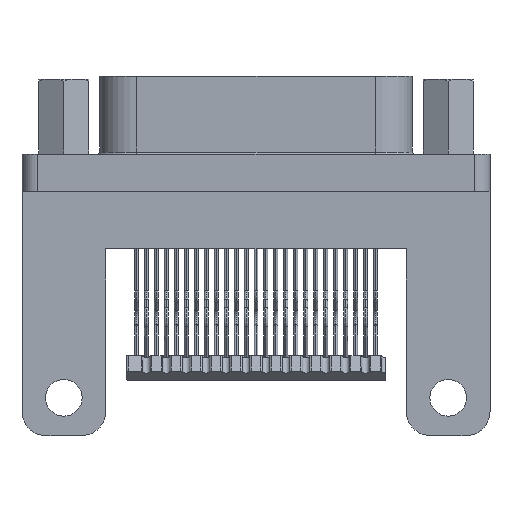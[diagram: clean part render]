
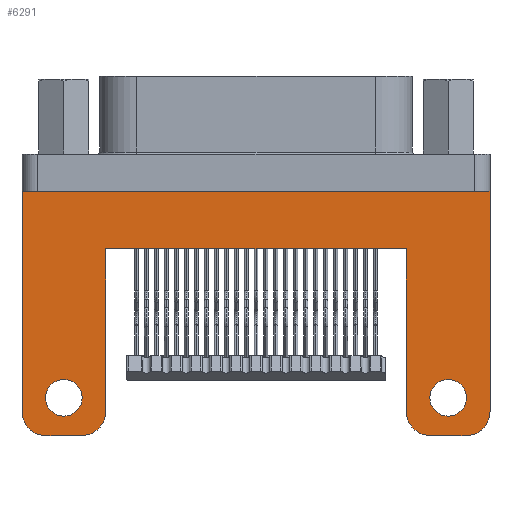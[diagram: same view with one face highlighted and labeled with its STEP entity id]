
A CAD part, front view. The second image highlights one B-rep face of the part: STEP entity #6291.
In plain terms, the highlighted planar face has unit normal (0, -1, 0).
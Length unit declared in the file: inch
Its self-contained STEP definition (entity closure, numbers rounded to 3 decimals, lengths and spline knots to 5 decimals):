
#168 = CARTESIAN_POINT ( 'NONE',  ( -0.5285, -0.17, -0.572 ) ) ;
#1288 = ORIENTED_EDGE ( 'NONE', *, *, #30283, .T. ) ;
#1327 = DIRECTION ( 'NONE',  ( 0., -1., 0. ) ) ;
#2332 = AXIS2_PLACEMENT_3D ( 'NONE', #32446, #20531, #61475 ) ;
#3058 = AXIS2_PLACEMENT_3D ( 'NONE', #11123, #28085, #23109 ) ;
#3175 = ORIENTED_EDGE ( 'NONE', *, *, #55993, .T. ) ;
#3183 = DIRECTION ( 'NONE',  ( 1., 0., 0. ) ) ;
#3599 = DIRECTION ( 'NONE',  ( 0., 1., 0. ) ) ;
#3725 = AXIS2_PLACEMENT_3D ( 'NONE', #62310, #43337, #3183 ) ;
#3795 = EDGE_CURVE ( 'NONE', #40444, #73450, #10150, .T. ) ;
#4733 = CARTESIAN_POINT ( 'NONE',  ( -0.5275, -0.17, -0.667 ) ) ;
#5763 = ORIENTED_EDGE ( 'NONE', *, *, #59586, .F. ) ;
#6291 = ADVANCED_FACE ( 'NONE', ( #43853, #6856, #42346 ), #65951, .T. ) ;
#6403 = ORIENTED_EDGE ( 'NONE', *, *, #74824, .T. ) ;
#6409 = AXIS2_PLACEMENT_3D ( 'NONE', #59103, #47498, #11971 ) ;
#6856 = FACE_BOUND ( 'NONE', #70817, .T. ) ;
#6862 = CARTESIAN_POINT ( 'NONE',  ( -0.5875, -0.17, -0.053 ) ) ;
#7282 = ORIENTED_EDGE ( 'NONE', *, *, #14029, .F. ) ;
#8904 = CIRCLE ( 'NONE', #6409, 0.046 ) ;
#9475 = EDGE_CURVE ( 'NONE', #32675, #39168, #68971, .T. ) ;
#9712 = CARTESIAN_POINT ( 'NONE',  ( 0.3775, -0.17, -0.667 ) ) ;
#10150 = CIRCLE ( 'NONE', #3058, 0.046 ) ;
#11123 = CARTESIAN_POINT ( 'NONE',  ( -0.4825, -0.17, -0.572 ) ) ;
#11342 = VERTEX_POINT ( 'NONE', #51732 ) ;
#11971 = DIRECTION ( 'NONE',  ( -1., 0., 0. ) ) ;
#12457 = DIRECTION ( 'NONE',  ( 0., 0., 1. ) ) ;
#12532 = EDGE_CURVE ( 'NONE', #42763, #29572, #28003, .T. ) ;
#13311 = DIRECTION ( 'NONE',  ( -1., 0., 0. ) ) ;
#14029 = EDGE_CURVE ( 'NONE', #15058, #42763, #52236, .T. ) ;
#14647 = AXIS2_PLACEMENT_3D ( 'NONE', #66982, #1327, #60064 ) ;
#14749 = DIRECTION ( 'NONE',  ( 0., 0., 1. ) ) ;
#15058 = VERTEX_POINT ( 'NONE', #44960 ) ;
#15308 = EDGE_CURVE ( 'NONE', #75183, #48683, #54309, .T. ) ;
#16342 = CARTESIAN_POINT ( 'NONE',  ( -0.5875, -0.17, -0.667 ) ) ;
#16945 = CARTESIAN_POINT ( 'NONE',  ( 0.5875, -0.17, -0.053 ) ) ;
#17752 = ORIENTED_EDGE ( 'NONE', *, *, #3795, .T. ) ;
#18004 = AXIS2_PLACEMENT_3D ( 'NONE', #71652, #60812, #13311 ) ;
#18327 = LINE ( 'NONE', #65381, #28744 ) ;
#18516 = EDGE_CURVE ( 'NONE', #48683, #75183, #29065, .T. ) ;
#18731 = VERTEX_POINT ( 'NONE', #4733 ) ;
#19298 = DIRECTION ( 'NONE',  ( 0., 0., 1. ) ) ;
#19550 = VECTOR ( 'NONE', #27827, 39.37008 ) ;
#19659 = CARTESIAN_POINT ( 'NONE',  ( -0.3775, -0.17, -0.667 ) ) ;
#19710 = DIRECTION ( 'NONE',  ( 1., 0., 0. ) ) ;
#20159 = CARTESIAN_POINT ( 'NONE',  ( 0.5285, -0.17, -0.572 ) ) ;
#20531 = DIRECTION ( 'NONE',  ( 0., -1., 0. ) ) ;
#20828 = VERTEX_POINT ( 'NONE', #51388 ) ;
#21321 = ORIENTED_EDGE ( 'NONE', *, *, #60599, .T. ) ;
#21676 = CARTESIAN_POINT ( 'NONE',  ( 0.3775, -0.17, -0.667 ) ) ;
#23109 = DIRECTION ( 'NONE',  ( -1., 0., 0. ) ) ;
#23488 = CIRCLE ( 'NONE', #3725, 0.06 ) ;
#24061 = CARTESIAN_POINT ( 'NONE',  ( 0.5875, -0.17, -0.607 ) ) ;
#25378 = DIRECTION ( 'NONE',  ( 1., 0., 0. ) ) ;
#27827 = DIRECTION ( 'NONE',  ( 0., 0., 1. ) ) ;
#28003 = LINE ( 'NONE', #75944, #58898 ) ;
#28085 = DIRECTION ( 'NONE',  ( 0., 1., 0. ) ) ;
#28744 = VECTOR ( 'NONE', #12457, 39.37008 ) ;
#29059 = CARTESIAN_POINT ( 'NONE',  ( -0.4375, -0.17, -0.667 ) ) ;
#29065 = CIRCLE ( 'NONE', #18004, 0.046 ) ;
#29572 = VERTEX_POINT ( 'NONE', #16945 ) ;
#30283 = EDGE_CURVE ( 'NONE', #39168, #20828, #65623, .T. ) ;
#30719 = ORIENTED_EDGE ( 'NONE', *, *, #9475, .T. ) ;
#30734 = ORIENTED_EDGE ( 'NONE', *, *, #63821, .T. ) ;
#31685 = VERTEX_POINT ( 'NONE', #36813 ) ;
#32423 = VECTOR ( 'NONE', #47136, 39.37008 ) ;
#32446 = CARTESIAN_POINT ( 'NONE',  ( -0.4375, -0.17, -0.607 ) ) ;
#32631 = EDGE_CURVE ( 'NONE', #42223, #29572, #18327, .T. ) ;
#32675 = VERTEX_POINT ( 'NONE', #29059 ) ;
#32848 = LINE ( 'NONE', #9712, #47943 ) ;
#34052 = DIRECTION ( 'NONE',  ( -1., 0., 0. ) ) ;
#34581 = CARTESIAN_POINT ( 'NONE',  ( 0.39, -0.17, -0.198 ) ) ;
#34661 = VECTOR ( 'NONE', #56409, 39.37008 ) ;
#36113 = ORIENTED_EDGE ( 'NONE', *, *, #43072, .F. ) ;
#36813 = CARTESIAN_POINT ( 'NONE',  ( 0.4375, -0.17, -0.667 ) ) ;
#38208 = ORIENTED_EDGE ( 'NONE', *, *, #54513, .T. ) ;
#38233 = AXIS2_PLACEMENT_3D ( 'NONE', #56475, #3599, #34052 ) ;
#39168 = VERTEX_POINT ( 'NONE', #47223 ) ;
#40444 = VERTEX_POINT ( 'NONE', #168 ) ;
#40862 = EDGE_LOOP ( 'NONE', ( #17752, #3175 ) ) ;
#42223 = VERTEX_POINT ( 'NONE', #24061 ) ;
#42346 = FACE_BOUND ( 'NONE', #40862, .T. ) ;
#42432 = EDGE_CURVE ( 'NONE', #32675, #18731, #49494, .T. ) ;
#42720 = CARTESIAN_POINT ( 'NONE',  ( 0.3775, -0.17, -0.667 ) ) ;
#42763 = VERTEX_POINT ( 'NONE', #6862 ) ;
#43072 = EDGE_CURVE ( 'NONE', #53651, #20828, #63960, .T. ) ;
#43337 = DIRECTION ( 'NONE',  ( 0., -1., 0. ) ) ;
#43853 = FACE_OUTER_BOUND ( 'NONE', #47062, .T. ) ;
#44789 = CARTESIAN_POINT ( 'NONE',  ( -0.4365, -0.17, -0.572 ) ) ;
#44899 = CARTESIAN_POINT ( 'NONE',  ( 0.4365, -0.17, -0.572 ) ) ;
#44960 = CARTESIAN_POINT ( 'NONE',  ( -0.5875, -0.17, -0.607 ) ) ;
#46004 = ORIENTED_EDGE ( 'NONE', *, *, #42432, .F. ) ;
#47062 = EDGE_LOOP ( 'NONE', ( #7282, #21321, #46004, #30719, #1288, #36113, #5763, #38208, #30734, #6403, #70720, #73445 ) ) ;
#47136 = DIRECTION ( 'NONE',  ( 1., 0., 0. ) ) ;
#47185 = VECTOR ( 'NONE', #52397, 39.37008 ) ;
#47223 = CARTESIAN_POINT ( 'NONE',  ( -0.3775, -0.17, -0.607 ) ) ;
#47498 = DIRECTION ( 'NONE',  ( 0., 1., 0. ) ) ;
#47943 = VECTOR ( 'NONE', #14749, 39.37008 ) ;
#48149 = CIRCLE ( 'NONE', #63009, 0.06 ) ;
#48683 = VERTEX_POINT ( 'NONE', #44899 ) ;
#49494 = LINE ( 'NONE', #50246, #34661 ) ;
#50246 = CARTESIAN_POINT ( 'NONE',  ( -0.3775, -0.17, -0.667 ) ) ;
#50829 = DIRECTION ( 'NONE',  ( 1., 0., 0. ) ) ;
#51388 = CARTESIAN_POINT ( 'NONE',  ( -0.3775, -0.17, -0.198 ) ) ;
#51732 = CARTESIAN_POINT ( 'NONE',  ( 0.5275, -0.17, -0.667 ) ) ;
#51835 = ORIENTED_EDGE ( 'NONE', *, *, #18516, .T. ) ;
#52236 = LINE ( 'NONE', #16342, #19550 ) ;
#52397 = DIRECTION ( 'NONE',  ( -1., 0., 0. ) ) ;
#53651 = VERTEX_POINT ( 'NONE', #55039 ) ;
#54309 = CIRCLE ( 'NONE', #38233, 0.046 ) ;
#54487 = VECTOR ( 'NONE', #19298, 39.37008 ) ;
#54513 = EDGE_CURVE ( 'NONE', #63688, #31685, #23488, .T. ) ;
#55039 = CARTESIAN_POINT ( 'NONE',  ( 0.3775, -0.17, -0.198 ) ) ;
#55993 = EDGE_CURVE ( 'NONE', #73450, #40444, #8904, .T. ) ;
#56060 = CARTESIAN_POINT ( 'NONE',  ( 0.3775, -0.17, -0.607 ) ) ;
#56409 = DIRECTION ( 'NONE',  ( -1., 0., 0. ) ) ;
#56475 = CARTESIAN_POINT ( 'NONE',  ( 0.4825, -0.17, -0.572 ) ) ;
#58898 = VECTOR ( 'NONE', #50829, 39.37008 ) ;
#59103 = CARTESIAN_POINT ( 'NONE',  ( -0.4825, -0.17, -0.572 ) ) ;
#59586 = EDGE_CURVE ( 'NONE', #63688, #53651, #32848, .T. ) ;
#60064 = DIRECTION ( 'NONE',  ( 1., 0., 0. ) ) ;
#60599 = EDGE_CURVE ( 'NONE', #15058, #18731, #48149, .T. ) ;
#60812 = DIRECTION ( 'NONE',  ( 0., 1., 0. ) ) ;
#61475 = DIRECTION ( 'NONE',  ( 1., 0., 0. ) ) ;
#61613 = ORIENTED_EDGE ( 'NONE', *, *, #15308, .T. ) ;
#62310 = CARTESIAN_POINT ( 'NONE',  ( 0.4375, -0.17, -0.607 ) ) ;
#63009 = AXIS2_PLACEMENT_3D ( 'NONE', #64621, #72600, #19710 ) ;
#63688 = VERTEX_POINT ( 'NONE', #56060 ) ;
#63821 = EDGE_CURVE ( 'NONE', #31685, #11342, #74576, .T. ) ;
#63960 = LINE ( 'NONE', #34581, #47185 ) ;
#64621 = CARTESIAN_POINT ( 'NONE',  ( -0.5275, -0.17, -0.607 ) ) ;
#65039 = CIRCLE ( 'NONE', #14647, 0.06 ) ;
#65381 = CARTESIAN_POINT ( 'NONE',  ( 0.5875, -0.17, -0.667 ) ) ;
#65623 = LINE ( 'NONE', #19659, #54487 ) ;
#65951 = PLANE ( 'NONE',  #72743 ) ;
#66328 = DIRECTION ( 'NONE',  ( 0., -1., 0. ) ) ;
#66982 = CARTESIAN_POINT ( 'NONE',  ( 0.5275, -0.17, -0.607 ) ) ;
#68971 = CIRCLE ( 'NONE', #2332, 0.06 ) ;
#70720 = ORIENTED_EDGE ( 'NONE', *, *, #32631, .T. ) ;
#70817 = EDGE_LOOP ( 'NONE', ( #51835, #61613 ) ) ;
#71652 = CARTESIAN_POINT ( 'NONE',  ( 0.4825, -0.17, -0.572 ) ) ;
#72600 = DIRECTION ( 'NONE',  ( 0., -1., 0. ) ) ;
#72743 = AXIS2_PLACEMENT_3D ( 'NONE', #42720, #66328, #25378 ) ;
#73445 = ORIENTED_EDGE ( 'NONE', *, *, #12532, .F. ) ;
#73450 = VERTEX_POINT ( 'NONE', #44789 ) ;
#74576 = LINE ( 'NONE', #21676, #32423 ) ;
#74824 = EDGE_CURVE ( 'NONE', #11342, #42223, #65039, .T. ) ;
#75183 = VERTEX_POINT ( 'NONE', #20159 ) ;
#75944 = CARTESIAN_POINT ( 'NONE',  ( 0.3775, -0.17, -0.053 ) ) ;
